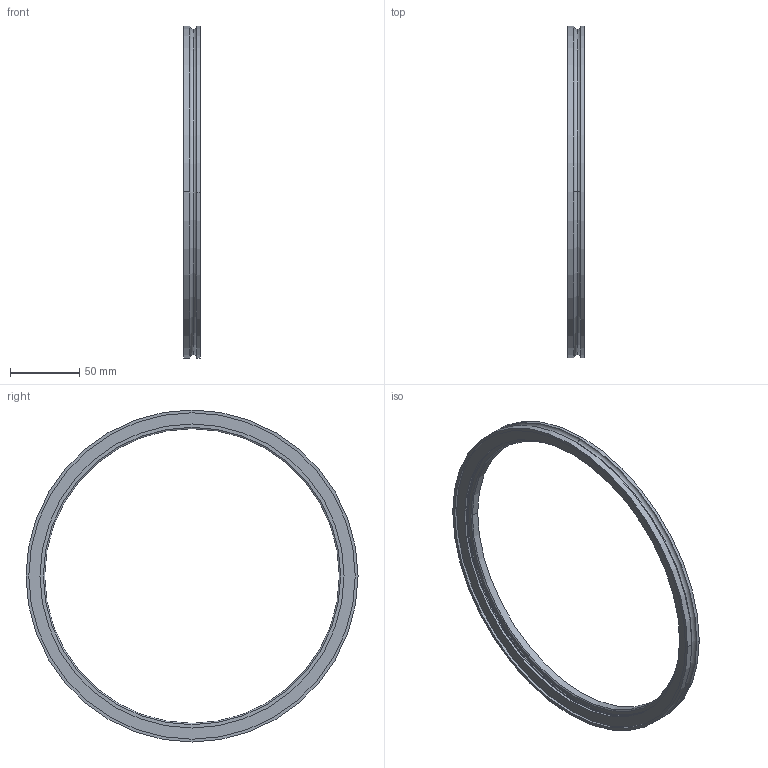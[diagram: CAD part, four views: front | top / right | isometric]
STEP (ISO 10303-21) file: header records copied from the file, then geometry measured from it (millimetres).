
FILE_DESCRIPTION((''),'2;1');
FILE_NAME('W:\212-034.stp','2004-01-07T14:41:25',('KAA'),(''),'Autodesk Inventor (R) 6.0','Autodesk Inventor (R) 6.0','');
FILE_SCHEMA(('CONFIG_CONTROL_DESIGN'));
Length unit declared in the file: millimetre
Products named in the file (1): 212-034
Bounding box: 12 x 240 x 240 mm (x, y, z)
Volume: 81501.4 mm3; surface area: 38827.7 mm2
Topology: 1 solids, 1 shells, 26 faces, 59 edges, 37 vertices
Faces by surface type: cylinder 10, bspline 4, torus 4, cone 4, plane 4
Entity records: 1011 total; most frequent: CARTESIAN_POINT 299, DIRECTION 150, ORIENTED_EDGE 118, AXIS2_PLACEMENT_3D 68, EDGE_CURVE 59, CIRCLE 45, VERTEX_POINT 37, EDGE_LOOP 30
